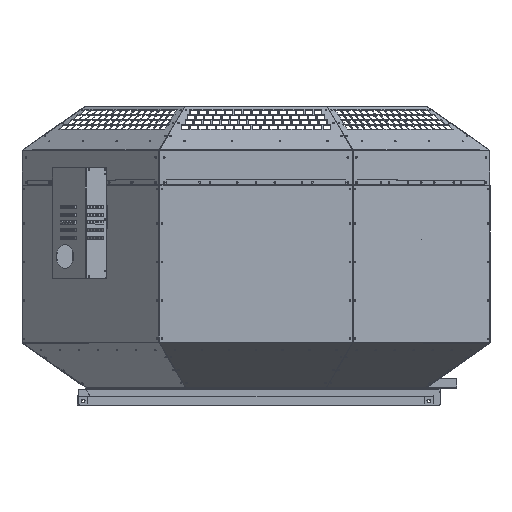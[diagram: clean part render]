
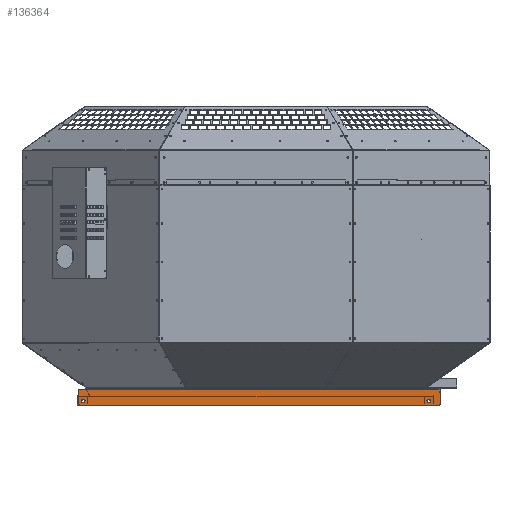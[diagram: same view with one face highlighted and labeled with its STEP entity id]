
A CAD part, top view. The second image highlights one B-rep face of the part: STEP entity #136364.
In plain terms, the highlighted planar face has unit normal (0, 0, 1).
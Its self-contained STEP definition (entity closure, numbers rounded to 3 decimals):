
#1515 = ORIENTED_EDGE ( 'NONE', *, *, #74978, .F. ) ;
#2613 = EDGE_CURVE ( 'NONE', #55287, #33427, #10706, .T. ) ;
#3098 = ORIENTED_EDGE ( 'NONE', *, *, #2613, .T. ) ;
#4757 = CARTESIAN_POINT ( 'NONE',  ( 475.95, -25., 468.1 ) ) ;
#6367 = CIRCLE ( 'NONE', #58810, 4.5 ) ;
#7825 = FACE_OUTER_BOUND ( 'NONE', #46323, .T. ) ;
#9465 = VECTOR ( 'NONE', #87439, 1000. ) ;
#10706 = LINE ( 'NONE', #82718, #67321 ) ;
#12472 = CARTESIAN_POINT ( 'NONE',  ( -449.5, -18.7, 468.1 ) ) ;
#12920 = VERTEX_POINT ( 'NONE', #122834 ) ;
#15287 = AXIS2_PLACEMENT_3D ( 'NONE', #108170, #40466, #119506 ) ;
#17148 = LINE ( 'NONE', #27776, #40125 ) ;
#18036 = CARTESIAN_POINT ( 'NONE',  ( -449.5, -14.2, 468.1 ) ) ;
#18313 = VECTOR ( 'NONE', #33530, 1000. ) ;
#20391 = EDGE_CURVE ( 'NONE', #99218, #60012, #135548, .T. ) ;
#21571 = AXIS2_PLACEMENT_3D ( 'NONE', #26398, #105451, #37769 ) ;
#23427 = DIRECTION ( 'NONE',  ( 0., 0., 1. ) ) ;
#24921 = CARTESIAN_POINT ( 'NONE',  ( -461.05, -22., 468.1 ) ) ;
#25578 = CARTESIAN_POINT ( 'NONE',  ( -449.5, -14.2, 468.1 ) ) ;
#25980 = EDGE_LOOP ( 'NONE', ( #146396, #99381 ) ) ;
#26398 = CARTESIAN_POINT ( 'NONE',  ( 449.5, -14.2, 468.1 ) ) ;
#27370 = CARTESIAN_POINT ( 'NONE',  ( -439.55, 16.6, 468.1 ) ) ;
#27776 = CARTESIAN_POINT ( 'NONE',  ( 461.05, 16.6, 468.1 ) ) ;
#29111 = ORIENTED_EDGE ( 'NONE', *, *, #75864, .T. ) ;
#29727 = DIRECTION ( 'NONE',  ( 0., 0., 1. ) ) ;
#31710 = AXIS2_PLACEMENT_3D ( 'NONE', #25578, #104637, #36936 ) ;
#33427 = VERTEX_POINT ( 'NONE', #27370 ) ;
#33530 = DIRECTION ( 'NONE',  ( 0., 1., 0. ) ) ;
#34442 = CARTESIAN_POINT ( 'NONE',  ( -461.05, 13.6, 468.1 ) ) ;
#35067 = CARTESIAN_POINT ( 'NONE',  ( -461.05, 16.6, 468.1 ) ) ;
#35365 = CARTESIAN_POINT ( 'NONE',  ( 478.95, 16.6, 468.1 ) ) ;
#36018 = LINE ( 'NONE', #76077, #9465 ) ;
#36843 = VERTEX_POINT ( 'NONE', #4757 ) ;
#36936 = DIRECTION ( 'NONE',  ( 0., -1., 0. ) ) ;
#37769 = DIRECTION ( 'NONE',  ( 0., -1., 0. ) ) ;
#40125 = VECTOR ( 'NONE', #95485, 1000. ) ;
#40466 = DIRECTION ( 'NONE',  ( 0., 0., 1. ) ) ;
#40844 = EDGE_CURVE ( 'NONE', #36843, #90420, #82208, .T. ) ;
#45361 = VERTEX_POINT ( 'NONE', #99001 ) ;
#46323 = EDGE_LOOP ( 'NONE', ( #145074, #29111, #127766, #115803, #85242, #139768, #80664, #85420, #3098 ) ) ;
#46461 = DIRECTION ( 'NONE',  ( 1., 0., 0. ) ) ;
#46747 = DIRECTION ( 'NONE',  ( 0., -1., 0. ) ) ;
#46920 = CARTESIAN_POINT ( 'NONE',  ( -458.05, -22., 468.1 ) ) ;
#47393 = LINE ( 'NONE', #35365, #103977 ) ;
#48384 = LINE ( 'NONE', #55797, #18313 ) ;
#51521 = VECTOR ( 'NONE', #46461, 1000. ) ;
#53816 = VERTEX_POINT ( 'NONE', #24921 ) ;
#55287 = VERTEX_POINT ( 'NONE', #70698 ) ;
#55797 = CARTESIAN_POINT ( 'NONE',  ( -461.05, 18.5, 468.1 ) ) ;
#56613 = AXIS2_PLACEMENT_3D ( 'NONE', #97449, #29727, #108802 ) ;
#58239 = DIRECTION ( 'NONE',  ( 0., 0., 1. ) ) ;
#58297 = DIRECTION ( 'NONE',  ( 0., -1., 0. ) ) ;
#58567 = LINE ( 'NONE', #35067, #51521 ) ;
#58810 = AXIS2_PLACEMENT_3D ( 'NONE', #91039, #23427, #102501 ) ;
#60012 = VERTEX_POINT ( 'NONE', #12472 ) ;
#65057 = EDGE_CURVE ( 'NONE', #55287, #102177, #17148, .T. ) ;
#67321 = VECTOR ( 'NONE', #70736, 1000. ) ;
#69113 = PLANE ( 'NONE',  #75776 ) ;
#70698 = CARTESIAN_POINT ( 'NONE',  ( 475.55, 16.6, 468.1 ) ) ;
#70736 = DIRECTION ( 'NONE',  ( -1., 0., 0. ) ) ;
#73271 = CARTESIAN_POINT ( 'NONE',  ( 478.95, -22., 468.1 ) ) ;
#74978 = EDGE_CURVE ( 'NONE', #12920, #87227, #6367, .T. ) ;
#75776 = AXIS2_PLACEMENT_3D ( 'NONE', #103206, #58239, #137220 ) ;
#75864 = EDGE_CURVE ( 'NONE', #79974, #80928, #77004, .T. ) ;
#76077 = CARTESIAN_POINT ( 'NONE',  ( -461.05, -25., 468.1 ) ) ;
#77004 = CIRCLE ( 'NONE', #15287, 3. ) ;
#79974 = VERTEX_POINT ( 'NONE', #134445 ) ;
#80664 = ORIENTED_EDGE ( 'NONE', *, *, #94920, .F. ) ;
#80928 = VERTEX_POINT ( 'NONE', #34442 ) ;
#81221 = CARTESIAN_POINT ( 'NONE',  ( 449.5, -9.7, 468.1 ) ) ;
#82208 = CIRCLE ( 'NONE', #56613, 3. ) ;
#82718 = CARTESIAN_POINT ( 'NONE',  ( -461.05, 16.6, 468.1 ) ) ;
#82792 = EDGE_CURVE ( 'NONE', #60012, #99218, #113151, .T. ) ;
#85242 = ORIENTED_EDGE ( 'NONE', *, *, #131087, .F. ) ;
#85420 = ORIENTED_EDGE ( 'NONE', *, *, #65057, .F. ) ;
#85720 = DIRECTION ( 'NONE',  ( 0., 0., 1. ) ) ;
#86056 = EDGE_CURVE ( 'NONE', #53816, #45361, #132866, .T. ) ;
#87227 = VERTEX_POINT ( 'NONE', #81221 ) ;
#87439 = DIRECTION ( 'NONE',  ( -1., 0., 0. ) ) ;
#89368 = ORIENTED_EDGE ( 'NONE', *, *, #121885, .F. ) ;
#90420 = VERTEX_POINT ( 'NONE', #73271 ) ;
#91039 = CARTESIAN_POINT ( 'NONE',  ( 449.5, -14.2, 468.1 ) ) ;
#94920 = EDGE_CURVE ( 'NONE', #102177, #90420, #47393, .T. ) ;
#95485 = DIRECTION ( 'NONE',  ( 1., 0., 0. ) ) ;
#96235 = AXIS2_PLACEMENT_3D ( 'NONE', #18036, #85720, #146662 ) ;
#97449 = CARTESIAN_POINT ( 'NONE',  ( 475.95, -22., 468.1 ) ) ;
#98042 = FACE_BOUND ( 'NONE', #25980, .T. ) ;
#99001 = CARTESIAN_POINT ( 'NONE',  ( -458.05, -25., 468.1 ) ) ;
#99218 = VERTEX_POINT ( 'NONE', #123030 ) ;
#99381 = ORIENTED_EDGE ( 'NONE', *, *, #20391, .F. ) ;
#100419 = CIRCLE ( 'NONE', #21571, 4.5 ) ;
#102177 = VERTEX_POINT ( 'NONE', #115705 ) ;
#102501 = DIRECTION ( 'NONE',  ( 0., -1., 0. ) ) ;
#103206 = CARTESIAN_POINT ( 'NONE',  ( -461.05, 18.5, 468.1 ) ) ;
#103977 = VECTOR ( 'NONE', #46747, 1000. ) ;
#104637 = DIRECTION ( 'NONE',  ( 0., 0., 1. ) ) ;
#105125 = FACE_BOUND ( 'NONE', #132261, .T. ) ;
#105451 = DIRECTION ( 'NONE',  ( 0., 0., 1. ) ) ;
#108170 = CARTESIAN_POINT ( 'NONE',  ( -458.05, 13.6, 468.1 ) ) ;
#108298 = EDGE_CURVE ( 'NONE', #79974, #33427, #58567, .T. ) ;
#108802 = DIRECTION ( 'NONE',  ( 0., -1., 0. ) ) ;
#113151 = CIRCLE ( 'NONE', #31710, 4.5 ) ;
#115705 = CARTESIAN_POINT ( 'NONE',  ( 478.95, 16.6, 468.1 ) ) ;
#115803 = ORIENTED_EDGE ( 'NONE', *, *, #86056, .T. ) ;
#119506 = DIRECTION ( 'NONE',  ( 0., -1., 0. ) ) ;
#121885 = EDGE_CURVE ( 'NONE', #87227, #12920, #100419, .T. ) ;
#122834 = CARTESIAN_POINT ( 'NONE',  ( 449.5, -18.7, 468.1 ) ) ;
#123030 = CARTESIAN_POINT ( 'NONE',  ( -449.5, -9.7, 468.1 ) ) ;
#125954 = DIRECTION ( 'NONE',  ( 0., 0., 1. ) ) ;
#127766 = ORIENTED_EDGE ( 'NONE', *, *, #131202, .F. ) ;
#128423 = AXIS2_PLACEMENT_3D ( 'NONE', #46920, #125954, #58297 ) ;
#131087 = EDGE_CURVE ( 'NONE', #36843, #45361, #36018, .T. ) ;
#131202 = EDGE_CURVE ( 'NONE', #53816, #80928, #48384, .T. ) ;
#132261 = EDGE_LOOP ( 'NONE', ( #1515, #89368 ) ) ;
#132866 = CIRCLE ( 'NONE', #128423, 3. ) ;
#134445 = CARTESIAN_POINT ( 'NONE',  ( -458.05, 16.6, 468.1 ) ) ;
#135548 = CIRCLE ( 'NONE', #96235, 4.5 ) ;
#136364 = ADVANCED_FACE ( 'NONE', ( #105125, #98042, #7825 ), #69113, .T. ) ;
#137220 = DIRECTION ( 'NONE',  ( 0., -1., 0. ) ) ;
#139768 = ORIENTED_EDGE ( 'NONE', *, *, #40844, .T. ) ;
#145074 = ORIENTED_EDGE ( 'NONE', *, *, #108298, .F. ) ;
#146396 = ORIENTED_EDGE ( 'NONE', *, *, #82792, .F. ) ;
#146662 = DIRECTION ( 'NONE',  ( 0., -1., 0. ) ) ;
